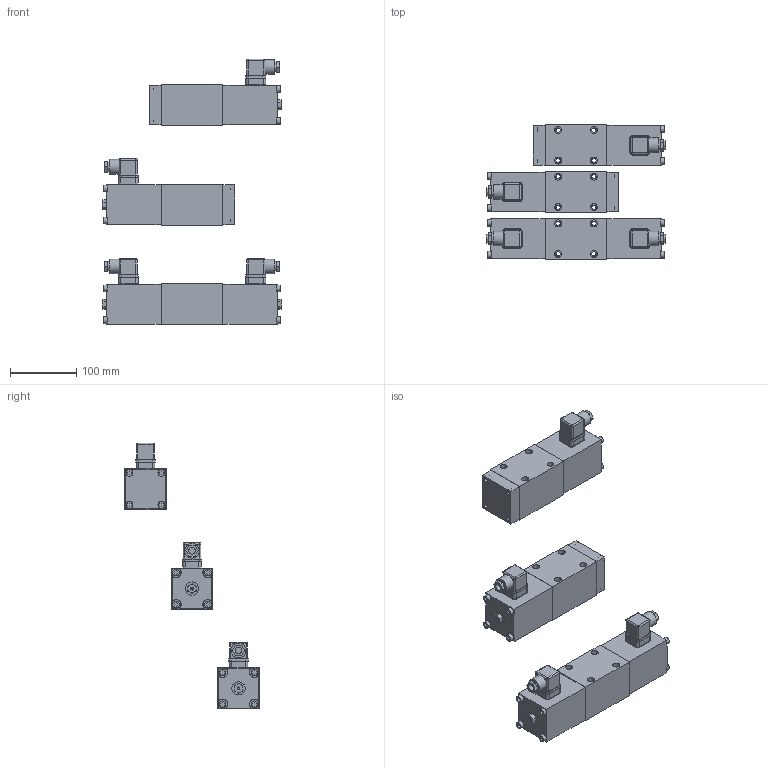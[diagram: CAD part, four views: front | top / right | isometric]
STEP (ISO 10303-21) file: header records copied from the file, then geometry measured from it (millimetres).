
FILE_DESCRIPTION(('Bauteilbeschreibung','HiCAD-Model','HiCAD-STEP-TRANSLATION','Bauteilbeschreibung'),'2;1');
FILE_NAME('K:/STEP_DXF/A_A_10.STP','2006-07-21T15:54:07+00:00',('Konstrukteur'),('Konstrukteur Firma GmbH'),'HiCAD3 V1210 STEP 1.6.2005','HiCAD3 V1210','confidential');
FILE_SCHEMA(('AUTOMOTIVE_DESIGN { 1 2 10303 214 0 1 1 1 }'));
Length unit declared in the file: millimetre
Products named in the file (72): A_A_10; A_4D10; ABF108A4; D0D0D3F6; AF5ECF44; B4DFF981; CA9517B3; CA9517B30; DICHTUNG; D0D0D3F60; AF5ECF440; B4DFF9810; CA9517B31; CA9517B32; DICHTUNG0; IN6KTM6; IN6KTM60; IN6KTM61; IN6KTM62; IN6KTM63; IN6KTM64; IN6KTM65; IN6KTM66; IN6KTM67; IN6KTM68; A205B8BF; D82DEE49; D82DEE490; A_4Z10_A; FF20FFD3; D0D0D3F61; AF5ECF441; B4DFF9811; CA9517B33; CA9517B34; DICHTUNG1; IN6KTM69; IN6KTM610; IN6KTM611; IN6KTM612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
Assembly tree (71 placements, depth 6):
  A_A_10
    A_4D10
      ABF108A4
        D0D0D3F6
          AF5ECF44
          B4DFF981
          CA9517B3
          CA9517B30
            DICHTUNG
        D0D0D3F60
          AF5ECF440
          B4DFF9810
          CA9517B31
          CA9517B32
            DICHTUNG0
        IN6KTM6
          IN6KTM60
          IN6KTM61
          IN6KTM62
          IN6KTM63
        IN6KTM64
          IN6KTM65
          IN6KTM66
          IN6KTM67
          IN6KTM68
        A205B8BF
        D82DEE49
        D82DEE490
    A_4Z10_A
      FF20FFD3
        D0D0D3F61
          AF5ECF441
          B4DFF9811
          CA9517B33
          CA9517B34
            DICHTUNG1
        IN6KTM69
          IN6KTM610
          IN6KTM611
          IN6KTM612
          IN6KTM613
        A205B8BF0
        D82DEE491
        DECKEL
        DECKEL0
          IN6KTM614
            IN6KTM615
            IN6KTM616
            IN6KTM617
            IN6KTM618
    A_4Z10_B
      FCADC137
        D0D0D3F62
          AF5ECF442
          B4DFF9812
          CA9517B35
          CA9517B36
            DICHTUNG2
        IN6KTM619
          IN6KTM620
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Bounding box: 269.4 x 202 x 400 mm (x, y, z)
Volume: 2434630.7 mm3; surface area: 338436 mm2
Topology: 61 solids, 61 shells, 1080 faces, 2484 edges, 1661 vertices
Faces by surface type: plane 673, cylinder 311, cone 72, sphere 16, torus 8
Full cylindrical faces by diameter (mm): 1.5 x12, 2.5 x4, 3 x12, 4.2 x4, 4.9 x4, 6 x24, 6.5 x36, 6.8 x4, 7 x4, 8 x8, 10 x28, 10.5 x20, 14 x4, 15 x8, 16.9 x15, 20 x4, 22 x4, 32 x4
Entity records: 52191 total; most frequent: CARTESIAN_POINT 7546, DIRECTION 5168, ORIENTED_EDGE 4276, COLOUR_RGB 3267, PRESENTATION_STYLE_ASSIGNMENT 3267, OVER_RIDING_STYLED_ITEM 3218, CURVE_STYLE 2138, DRAUGHTING_PRE_DEFINED_CURVE_FONT 2138
